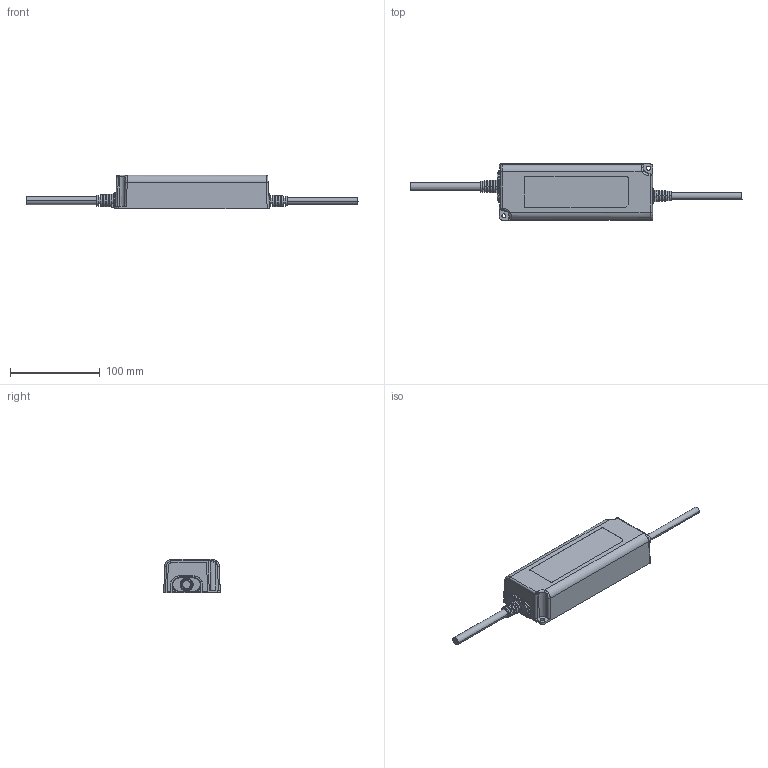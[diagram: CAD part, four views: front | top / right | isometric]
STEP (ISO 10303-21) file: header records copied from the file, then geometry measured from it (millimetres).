
FILE_DESCRIPTION(('Creo Elements/Direct Modeling STEP Export'),'2;1');
FILE_NAME('OWA-90.stp','2015-10-13T16:19:19',(''),(''),'PTC Creo Elements/Direct Modeling STEP processor for AP214 (Solid Model)','PTC Creo Elements/Direct Modeling 19.0 09-May-2014 (C) Parametric Technology GmbH','');
FILE_SCHEMA(('AUTOMOTIVE_DESIGN { 1 0 10303 214 1 1 1 1 }'));
Length unit declared in the file: millimetre
Products named in the file (6): p4; NEW-SR.1.1.1.1.1.1; p2; p1; p3; OWA-90
Assembly tree (5 placements, depth 2):
  OWA-90
    p3
    p1
    p2
    NEW-SR.1.1.1.1.1.1
    p4
Bounding box: 369.83 x 63.04 x 37.5 mm (x, y, z)
Volume: 87477.5 mm3; surface area: 101863 mm2
Topology: 4 solids, 6 shells, 698 faces, 1912 edges, 1237 vertices
Faces by surface type: plane 466, cylinder 166, cone 27, torus 16, bspline 15, sphere 8
Entity records: 22922 total; most frequent: CARTESIAN_POINT 5512, ORIENTED_EDGE 3823, DIRECTION 3318, EDGE_CURVE 1908, VECTOR 1284, LINE 1284, VERTEX_POINT 1233, AXIS2_PLACEMENT_3D 1017
